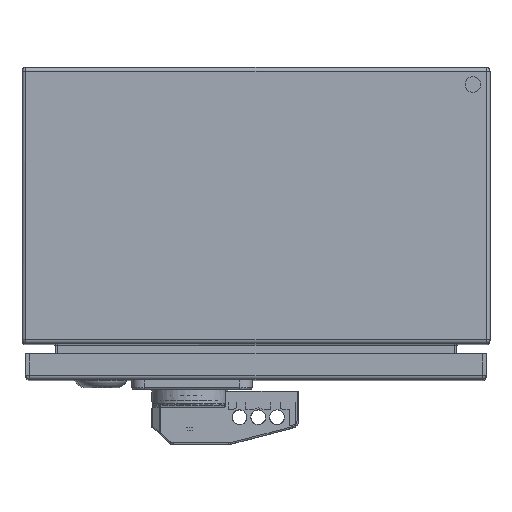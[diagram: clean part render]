
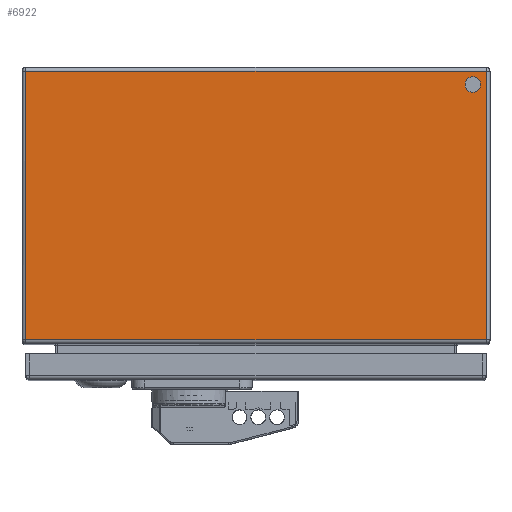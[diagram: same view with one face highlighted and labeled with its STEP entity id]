
A CAD part, top view. The second image highlights one B-rep face of the part: STEP entity #6922.
In plain terms, the highlighted planar face has unit normal (0, 0, 1).
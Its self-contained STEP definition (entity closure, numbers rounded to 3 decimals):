
#1195=LINE('',#29285,#2023);
#1196=LINE('',#29288,#2024);
#1197=LINE('',#29290,#2025);
#1198=LINE('',#29292,#2026);
#2023=VECTOR('',#21444,1.);
#2024=VECTOR('',#21445,1.);
#2025=VECTOR('',#21446,1.);
#2026=VECTOR('',#21447,1.);
#5543=PLANE('',#18158);
#6922=ADVANCED_FACE('',(#7759,#7760),#5543,.F.);
#7759=FACE_BOUND('',#8930,.T.);
#7760=FACE_BOUND('',#8931,.T.);
#8930=EDGE_LOOP('',(#12084));
#8931=EDGE_LOOP('',(#12085,#12086,#12087,#12088));
#12084=ORIENTED_EDGE('',*,*,#15838,.F.);
#12085=ORIENTED_EDGE('',*,*,#15902,.T.);
#12086=ORIENTED_EDGE('',*,*,#15903,.T.);
#12087=ORIENTED_EDGE('',*,*,#15904,.T.);
#12088=ORIENTED_EDGE('',*,*,#15905,.T.);
#14112=VERTEX_POINT('',#29140);
#14176=VERTEX_POINT('',#29286);
#14177=VERTEX_POINT('',#29287);
#14178=VERTEX_POINT('',#29289);
#14179=VERTEX_POINT('',#29291);
#15838=EDGE_CURVE('',#14112,#14112,#16816,.T.);
#15902=EDGE_CURVE('',#14176,#14177,#1195,.T.);
#15903=EDGE_CURVE('',#14177,#14178,#1196,.T.);
#15904=EDGE_CURVE('',#14178,#14179,#1197,.T.);
#15905=EDGE_CURVE('',#14179,#14176,#1198,.T.);
#16816=CIRCLE('',#18116,5.);
#18116=AXIS2_PLACEMENT_3D('',#29139,#21320,#21321);
#18158=AXIS2_PLACEMENT_3D('',#29293,#21448,#21449);
#21320=DIRECTION('',(0.,0.,1.));
#21321=DIRECTION('',(-1.,0.,0.));
#21444=DIRECTION('',(-1.,0.,0.));
#21445=DIRECTION('',(0.,-1.,0.));
#21446=DIRECTION('',(1.,0.,0.));
#21447=DIRECTION('',(0.,1.,0.));
#21448=DIRECTION('',(0.,0.,-1.));
#21449=DIRECTION('',(-1.,0.,0.));
#29139=CARTESIAN_POINT('',(139.,62.8,250.));
#29140=CARTESIAN_POINT('',(134.,62.8,250.));
#29285=CARTESIAN_POINT('',(150.,71.3,250.));
#29286=CARTESIAN_POINT('',(147.5,71.3,250.));
#29287=CARTESIAN_POINT('',(-147.5,71.3,250.));
#29288=CARTESIAN_POINT('',(-147.5,72.3,250.));
#29289=CARTESIAN_POINT('',(-147.5,-100.7,250.));
#29290=CARTESIAN_POINT('',(-541.115,-100.7,250.));
#29291=CARTESIAN_POINT('',(147.5,-100.7,250.));
#29292=CARTESIAN_POINT('',(147.5,72.3,250.));
#29293=CARTESIAN_POINT('',(150.,72.3,250.));
